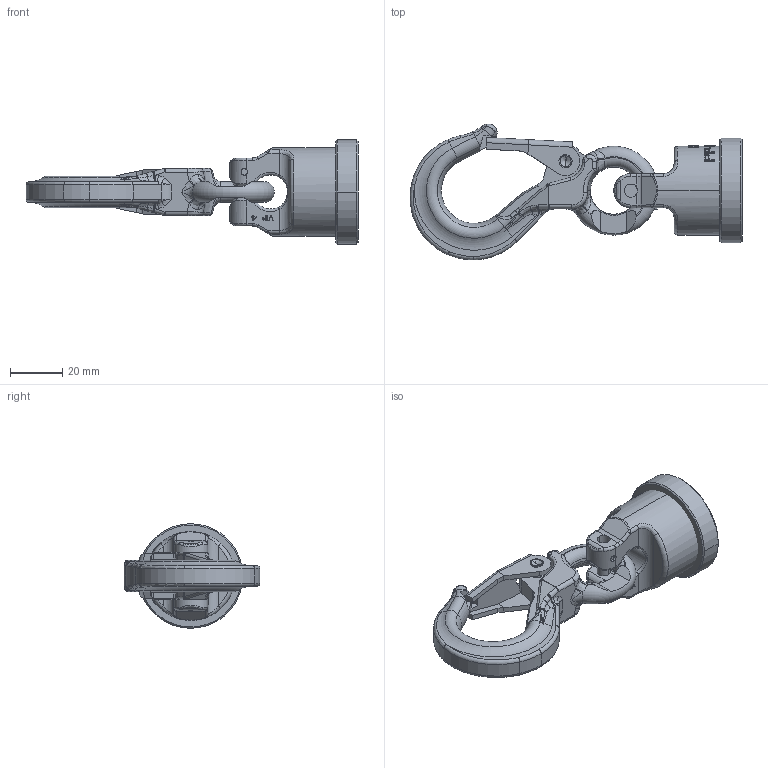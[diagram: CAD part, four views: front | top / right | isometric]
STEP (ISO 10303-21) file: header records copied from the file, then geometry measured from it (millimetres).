
FILE_DESCRIPTION((''),'2;1');
FILE_NAME('001-M31453-P-40_ASM','2018-04-27T',('Anja.Joas'),(''),'PRO/ENGINEER BY PARAMETRIC TECHNOLOGY CORPORATION, 2011490','PRO/ENGINEER BY PARAMETRIC TECHNOLOGY CORPORATION, 2011490','');
FILE_SCHEMA(('CONFIG_CONTROL_DESIGN'));
Length unit declared in the file: millimetre
Products named in the file (6): 001-M31453-P-20; 001-M31453-P-50; 001-M31569-P-1; 001-M31567-P-1; 001-M31569-P-1_ASM; 001-M31453-P-40_ASM
Assembly tree (5 placements, depth 3):
  001-M31453-P-40_ASM
    001-M31453-P-20
    001-M31453-P-50
    001-M31569-P-1_ASM
      001-M31569-P-1
      001-M31567-P-1
Bounding box: 126.99 x 51.99 x 40 mm (x, y, z)
Volume: 55216.3 mm3; surface area: 19019.5 mm2
Topology: 4 solids, 4 shells, 789 faces, 2062 edges, 1301 vertices
Faces by surface type: plane 455, cylinder 135, bspline 129, torus 50, cone 14, sphere 6
Entity records: 29383 total; most frequent: CARTESIAN_POINT 11469, ORIENTED_EDGE 4116, DIRECTION 3164, EDGE_CURVE 2058, VERTEX_POINT 1301, AXIS2_PLACEMENT_3D 1167, VECTOR 830, LINE 830
